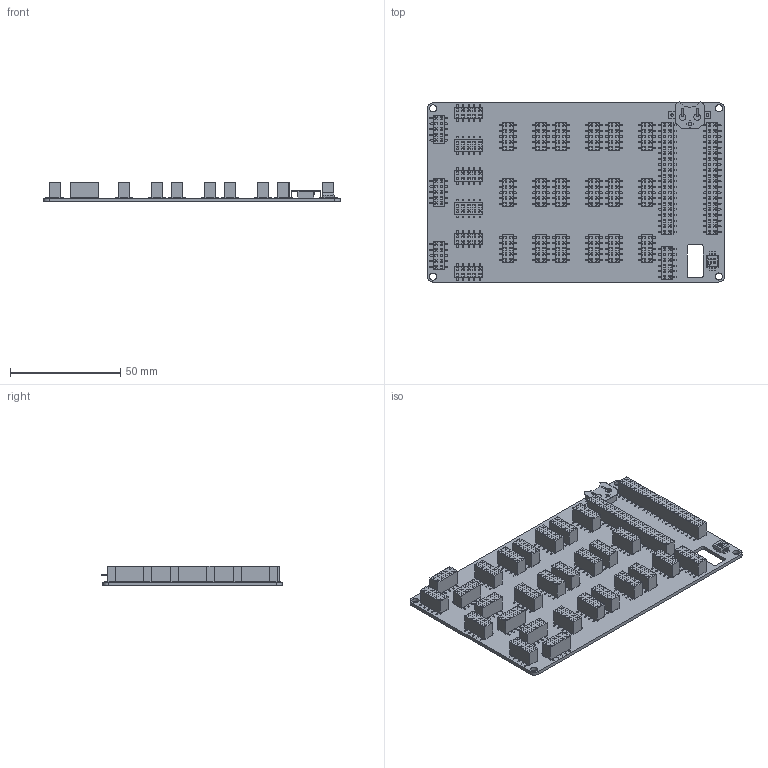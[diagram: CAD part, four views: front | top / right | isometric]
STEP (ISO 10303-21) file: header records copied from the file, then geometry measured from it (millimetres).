
FILE_DESCRIPTION(('KiCad electronic assembly'),'2;1');
FILE_NAME('STP_MTX0004.step','2024-11-21T16:51:33',('Pcbnew'),('Kicad'), 'Open CASCADE STEP processor 7.8','KiCad to STEP converter','Unknown' );
FILE_SCHEMA(('AUTOMOTIVE_DESIGN { 1 0 10303 214 1 1 1 1 }'));
Length unit declared in the file: millimetre
Products named in the file (12): STP_MTX0004 1; PinSocket_2x20_P2.54mm_Vertical_SMD; PinSocket_2x20_P254mm_Vertical_SMD; BatteryHolder_Keystone_3000_1x12mm; Keystone_3000_1x12mm; PinSocket_2x05_P2.54mm_Vertical_SMD; PinSocket_2x05_P254mm_Vertical_SMD; PinSocket_2x06_P2.54mm_Vertical_SMD; PinSocket_2x06_P254mm_Vertical_SMD; SW_DIP_SPSTx03_Slide_KingTek_DSHP03TS_W7.62mm_P1.27mm; SW_DIP_SPSTx03_Slide_KingTek_DSHP03TS_W762mm_P127mm; Genesis_PCB
Assembly tree (38 placements, depth 3):
  STP_MTX0004 1
    PinSocket_2x20_P2.54mm_Vertical_SMD  x2
      PinSocket_2x20_P254mm_Vertical_SMD
    BatteryHolder_Keystone_3000_1x12mm
      Keystone_3000_1x12mm
    PinSocket_2x05_P2.54mm_Vertical_SMD  x27
      PinSocket_2x05_P254mm_Vertical_SMD
    PinSocket_2x06_P2.54mm_Vertical_SMD
      PinSocket_2x06_P254mm_Vertical_SMD
    SW_DIP_SPSTx03_Slide_KingTek_DSHP03TS_W7.62mm_P1.27mm
      SW_DIP_SPSTx03_Slide_KingTek_DSHP03TS_W762mm_P127mm
    Genesis_PCB
Bounding box: 134.41 x 81.53 x 8.95 mm (x, y, z)
Volume: 32563.3 mm3; surface area: 43903.6 mm2
Topology: 34 solids, 34 shells, 13224 faces, 33255 edges, 21189 vertices
Faces by surface type: plane 12065, cylinder 1135, bspline 24
Full cylindrical faces by diameter (mm): 0.95 x2, 1.19 x2, 3.2 x4
Entity records: 89353 total; most frequent: CARTESIAN_POINT 12745, ORIENTED_EDGE 12414, DIRECTION 11603, EDGE_CURVE 6207, LINE 5717, VECTOR 5717, VERTEX_POINT 3957, AXIS2_PLACEMENT_3D 2943
